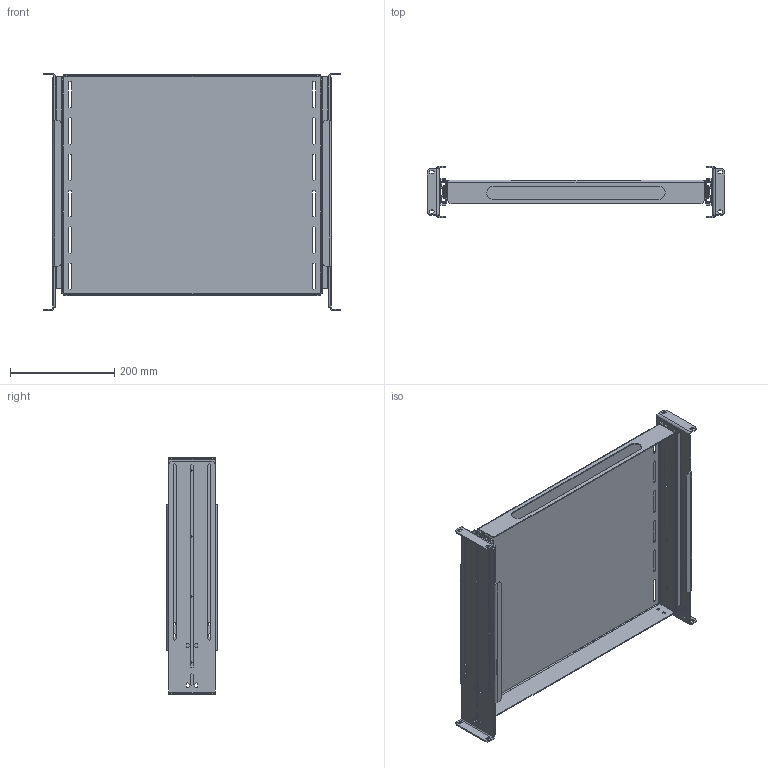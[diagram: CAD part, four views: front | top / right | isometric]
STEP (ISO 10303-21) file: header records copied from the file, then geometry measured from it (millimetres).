
FILE_DESCRIPTION((''),'2;1');
FILE_NAME('D:\scratch\ideas\p23shp68b.stp','2008-04-29T11:03:02',( 'User'),('SDRC'),'I-DEAS Master Series 9','UNIX','Yes');
FILE_SCHEMA(('AUTOMOTIVE_DESIGN { 1 0 10303 214 0 1 1 1 }'));
Length unit declared in the file: inch
Products named in the file (9): p23shp68b; 87560159; 30297001; outer_slide_370-16; middle_slide_370-16; inner_slide_370-16; shelf_equipment_23in_450mm; 87560163
Assembly tree (13 placements, depth 3):
  p23shp68b
    87560159  x2
    30297001
      outer_slide_370-16
      middle_slide_370-16
      inner_slide_370-16
    shelf_equipment_23in_450mm
    30297001
      outer_slide_370-16
      middle_slide_370-16
      inner_slide_370-16
    87560163  x2
Bounding box: 571.5 x 97.89 x 454.93 mm (x, y, z)
Volume: 1172415.5 mm3; surface area: 1192287.7 mm2
Topology: 11 solids, 11 shells, 574 faces, 1520 edges, 976 vertices
Faces by surface type: bspline 574
Entity records: 12118 total; most frequent: CARTESIAN_POINT 6087, ORIENTED_EDGE 1868, EDGE_CURVE 934, VERTEX_POINT 596, EDGE_LOOP 492, QUASI_UNIFORM_CURVE 406, FACE_OUTER_BOUND 358, ADVANCED_FACE 358
